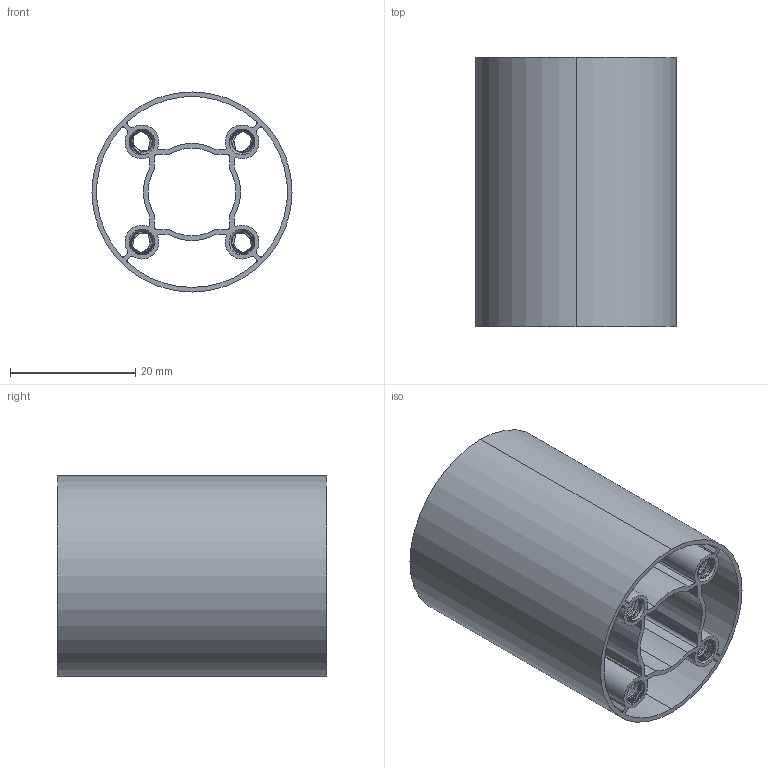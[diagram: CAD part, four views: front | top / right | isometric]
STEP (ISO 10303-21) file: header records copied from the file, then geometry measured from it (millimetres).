
FILE_DESCRIPTION (( 'STEP AP203' ), '1' );
FILE_NAME ('4103-0032-0043.STEP', '2022-09-14T13:43:00', ( '' ), ( '' ), 'SwSTEP 2.0', 'SolidWorks 2016', '' );
FILE_SCHEMA (( 'CONFIG_CONTROL_DESIGN' ));
Length unit declared in the file: millimetre
Products named in the file (1): 4103-0032-0043
Bounding box: 31.95 x 43 x 31.95 mm (x, y, z)
Volume: 7132.7 mm3; surface area: 18031.9 mm2
Topology: 1 solids, 1 shells, 781 faces, 2333 edges, 1554 vertices
Faces by surface type: cylinder 711, plane 34, cone 20, bspline 16
Entity records: 50002 total; most frequent: CARTESIAN_POINT 32717, ORIENTED_EDGE 4666, DIRECTION 2715, EDGE_CURVE 2333, VERTEX_POINT 1554, AXIS2_PLACEMENT_3D 960, EDGE_LOOP 799, LINE 795
